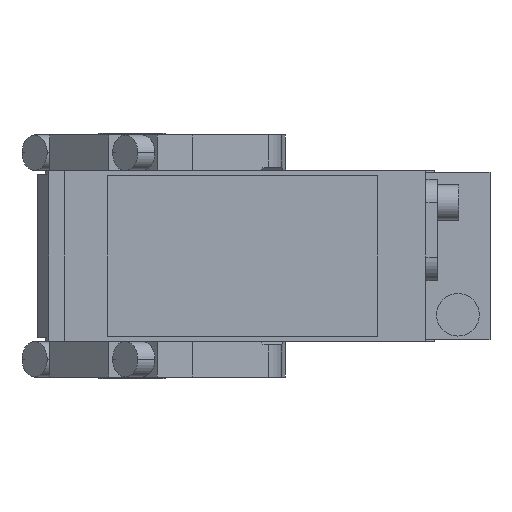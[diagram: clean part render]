
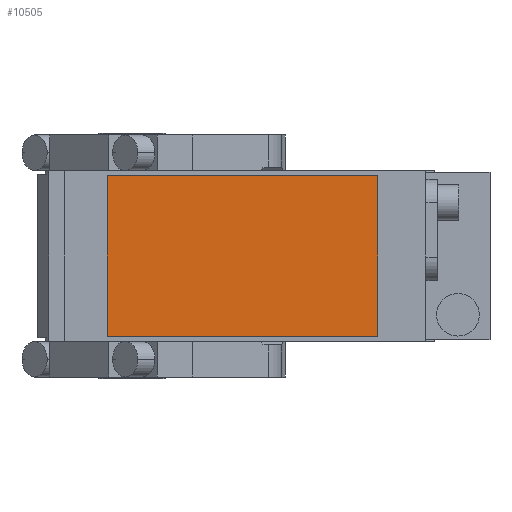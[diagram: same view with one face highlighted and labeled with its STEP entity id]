
A CAD part, front view. The second image highlights one B-rep face of the part: STEP entity #10505.
In plain terms, the highlighted planar face has unit normal (0, -1, 0).
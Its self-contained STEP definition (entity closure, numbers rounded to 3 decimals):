
#352 = CARTESIAN_POINT ( 'NONE',  ( 69., -280.5, -22.5 ) ) ;
#724 = DIRECTION ( 'NONE',  ( 0., 0., 1. ) ) ;
#745 = CARTESIAN_POINT ( 'NONE',  ( 0., -280.5, 0. ) ) ;
#939 = ORIENTED_EDGE ( 'NONE', *, *, #9971, .T. ) ;
#1271 = ORIENTED_EDGE ( 'NONE', *, *, #13231, .T. ) ;
#1545 = CARTESIAN_POINT ( 'NONE',  ( -7., -280.5, 22.5 ) ) ;
#1920 = LINE ( 'NONE', #4949, #5050 ) ;
#2556 = VERTEX_POINT ( 'NONE', #352 ) ;
#2575 = VERTEX_POINT ( 'NONE', #1545 ) ;
#3081 = FACE_OUTER_BOUND ( 'NONE', #9816, .T. ) ;
#3132 = DIRECTION ( 'NONE',  ( -1., 0., 0. ) ) ;
#3381 = CARTESIAN_POINT ( 'NONE',  ( -7., -280.5, -22.5 ) ) ;
#3959 = VECTOR ( 'NONE', #9984, 1000. ) ;
#4044 = CARTESIAN_POINT ( 'NONE',  ( -7., -280.5, 22.5 ) ) ;
#4949 = CARTESIAN_POINT ( 'NONE',  ( 69., -280.5, 22.5 ) ) ;
#5050 = VECTOR ( 'NONE', #724, 1000. ) ;
#5295 = AXIS2_PLACEMENT_3D ( 'NONE', #745, #11710, #6298 ) ;
#5395 = ORIENTED_EDGE ( 'NONE', *, *, #5503, .T. ) ;
#5489 = VECTOR ( 'NONE', #7736, 1000. ) ;
#5501 = VERTEX_POINT ( 'NONE', #3381 ) ;
#5503 = EDGE_CURVE ( 'NONE', #5501, #2556, #5545, .T. ) ;
#5545 = LINE ( 'NONE', #9870, #5489 ) ;
#6298 = DIRECTION ( 'NONE',  ( 0., 0., -1. ) ) ;
#7123 = VERTEX_POINT ( 'NONE', #12297 ) ;
#7736 = DIRECTION ( 'NONE',  ( 1., 0., 0. ) ) ;
#8484 = LINE ( 'NONE', #4044, #9997 ) ;
#8652 = ORIENTED_EDGE ( 'NONE', *, *, #10778, .T. ) ;
#9816 = EDGE_LOOP ( 'NONE', ( #1271, #5395, #939, #8652 ) ) ;
#9870 = CARTESIAN_POINT ( 'NONE',  ( -7., -280.5, -22.5 ) ) ;
#9971 = EDGE_CURVE ( 'NONE', #2556, #7123, #1920, .T. ) ;
#9984 = DIRECTION ( 'NONE',  ( 0., 0., -1. ) ) ;
#9997 = VECTOR ( 'NONE', #3132, 1000. ) ;
#10068 = LINE ( 'NONE', #13320, #3959 ) ;
#10505 = ADVANCED_FACE ( 'NONE', ( #3081 ), #11487, .T. ) ;
#10778 = EDGE_CURVE ( 'NONE', #7123, #2575, #8484, .T. ) ;
#11487 = PLANE ( 'NONE',  #5295 ) ;
#11710 = DIRECTION ( 'NONE',  ( 0., -1., 0. ) ) ;
#12297 = CARTESIAN_POINT ( 'NONE',  ( 69., -280.5, 22.5 ) ) ;
#13231 = EDGE_CURVE ( 'NONE', #2575, #5501, #10068, .T. ) ;
#13320 = CARTESIAN_POINT ( 'NONE',  ( -7., -280.5, 22.5 ) ) ;
